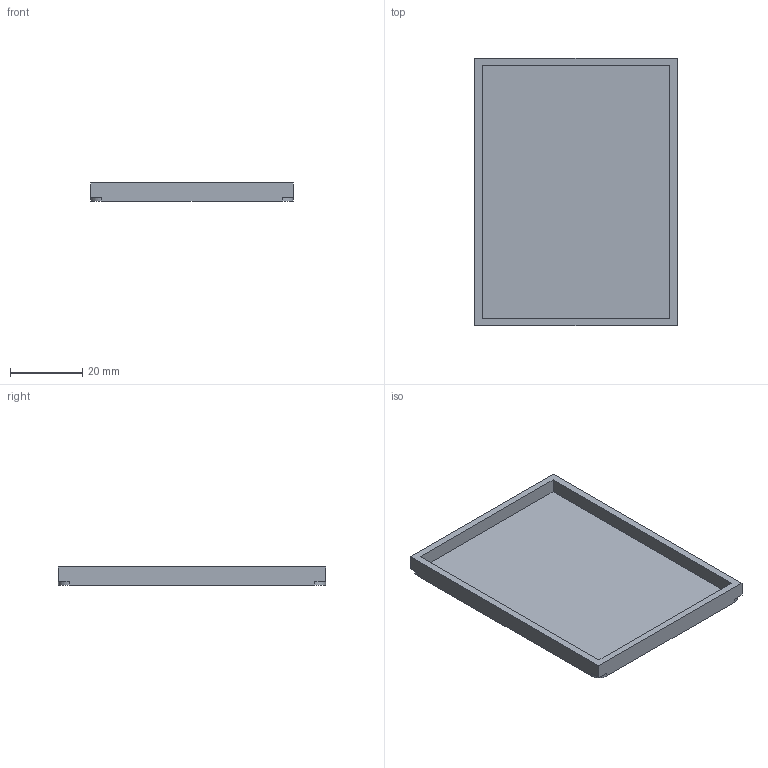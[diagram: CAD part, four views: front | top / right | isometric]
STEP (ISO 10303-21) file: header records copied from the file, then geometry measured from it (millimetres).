
FILE_DESCRIPTION(('Open CASCADE Model'),'2;1');
FILE_NAME('Open CASCADE Shape Model','2026-09-08T13:32:07',('Author'),( 'Open CASCADE'),'Open CASCADE STEP processor 7.7','Open CASCADE 7.7' ,'Unknown');
FILE_SCHEMA(('AUTOMOTIVE_DESIGN { 1 0 10303 214 1 1 1 1 }'));
Length unit declared in the file: millimetre
Products named in the file (1): Open CASCADE STEP translator 7.7 23
Bounding box: 56 x 74 x 5 mm (x, y, z)
Volume: 6152.3 mm3; surface area: 10558.8 mm2
Topology: 1 solids, 1 shells, 19 faces, 48 edges, 32 vertices
Faces by surface type: plane 15, cylinder 4
Entity records: 1222 total; most frequent: CARTESIAN_POINT 232, DIRECTION 186, LINE 128, VECTOR 128, ORIENTED_EDGE 96, PCURVE 96, DEFINITIONAL_REPRESENTATION 96, EDGE_CURVE 48
